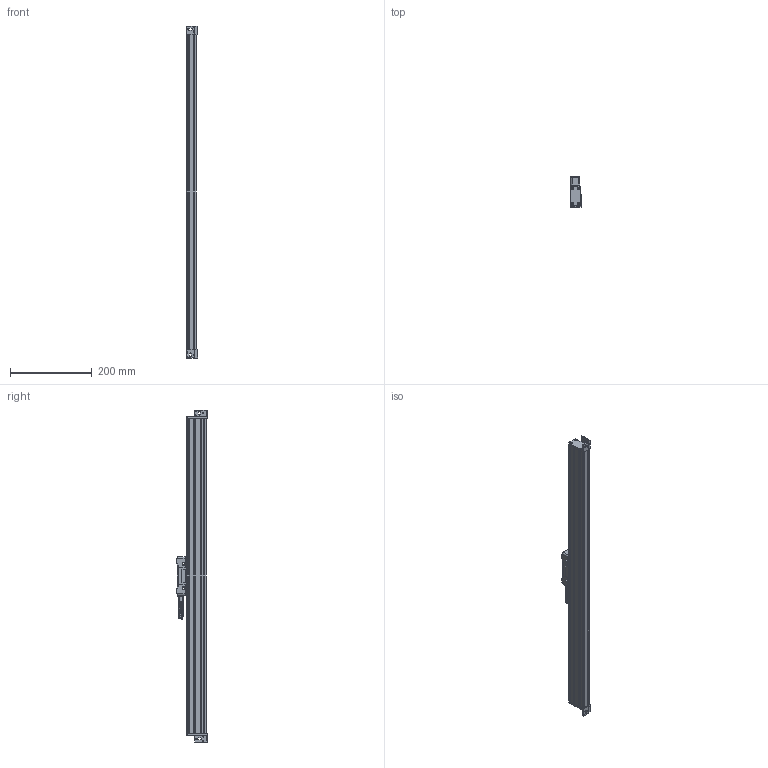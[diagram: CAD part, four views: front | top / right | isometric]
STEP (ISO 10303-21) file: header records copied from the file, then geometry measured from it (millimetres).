
FILE_DESCRIPTION (( 'STEP AP214' ), '1' );
FILE_NAME ('MLC310x0650.STEP', '2021-05-08T11:50:58', ( '' ), ( '' ), 'SwSTEP 2.0', 'SolidWorks 2014', '' );
FILE_SCHEMA (( 'AUTOMOTIVE_DESIGN' ));
Length unit declared in the file: millimetre
Products named in the file (1): MLC310x0650
Bounding box: 27 x 75.15 x 814 mm (x, y, z)
Surface area: 148996.9 mm2 (no closed solid volume)
Topology: 0 solids, 19 shells, 428 faces, 1390 edges, 976 vertices
Faces by surface type: plane 171, cylinder 149, cone 75, bspline 23, torus 10
Entity records: 29808 total; most frequent: CARTESIAN_POINT 13219, DIRECTION 2435, ORIENTED_EDGE 2217, EDGE_CURVE 1388, VERTEX_POINT 976, AXIS2_PLACEMENT_3D 846, LINE 743, VECTOR 743
